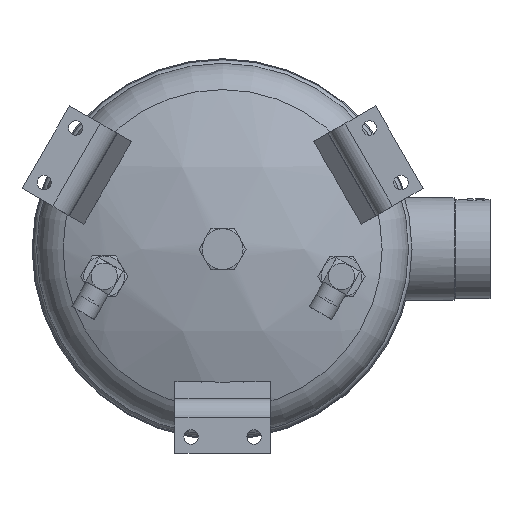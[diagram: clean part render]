
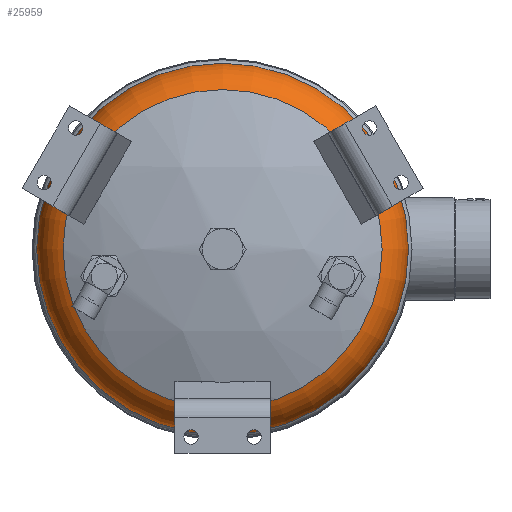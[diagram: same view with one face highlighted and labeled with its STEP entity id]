
A CAD part, front view. The second image highlights one B-rep face of the part: STEP entity #25959.
In plain terms, the highlighted toroidal (fillet/blend) face has major radius 103.2 mm and minor radius 33.4 mm.
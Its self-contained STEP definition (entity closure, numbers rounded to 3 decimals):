
#15=TOROIDAL_SURFACE('',#27930,103.2,33.4);
#6412=FACE_BOUND('',#9399,.T.);
#7889=FACE_OUTER_BOUND('',#9398,.T.);
#9398=EDGE_LOOP('',(#22830));
#9399=EDGE_LOOP('',(#22831));
#10157=CIRCLE('',#27917,117.235);
#10170=CIRCLE('',#27931,136.6);
#12660=VERTEX_POINT('',#54738);
#12676=VERTEX_POINT('',#54843);
#16449=EDGE_CURVE('',#12660,#12660,#10157,.T.);
#16465=EDGE_CURVE('',#12676,#12676,#10170,.T.);
#22830=ORIENTED_EDGE('',*,*,#16449,.F.);
#22831=ORIENTED_EDGE('',*,*,#16465,.T.);
#25959=ADVANCED_FACE('',(#7889,#6412),#15,.T.);
#27917=AXIS2_PLACEMENT_3D('',#54739,#33475,#33476);
#27930=AXIS2_PLACEMENT_3D('',#54842,#33501,#33502);
#27931=AXIS2_PLACEMENT_3D('',#54844,#33503,#33504);
#33475=DIRECTION('center_axis',(0.,-1.,0.));
#33476=DIRECTION('ref_axis',(-1.,0.,0.));
#33501=DIRECTION('center_axis',(0.,-1.,0.));
#33502=DIRECTION('ref_axis',(0.,0.,
1.));
#33503=DIRECTION('center_axis',(0.,-1.,0.));
#33504=DIRECTION('ref_axis',(-1.,0.,0.));
#54738=CARTESIAN_POINT('',(-117.235,-62.54,0.));
#54739=CARTESIAN_POINT('Origin',(0.,-62.54,
0.));
#54842=CARTESIAN_POINT('Origin',(0.,-32.232,
0.));
#54843=CARTESIAN_POINT('',(-136.6,-32.232,0.));
#54844=CARTESIAN_POINT('Origin',(0.,-32.232,
0.));
